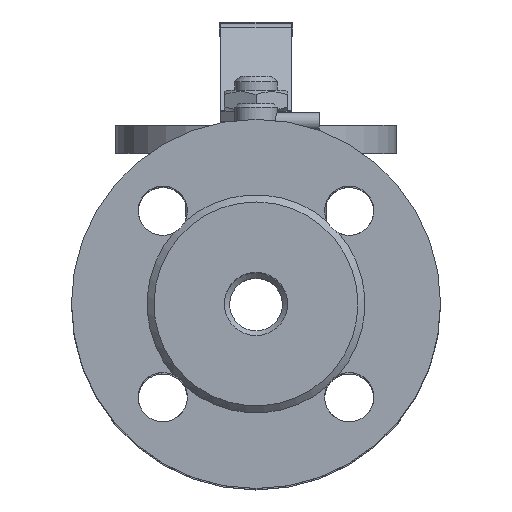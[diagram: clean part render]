
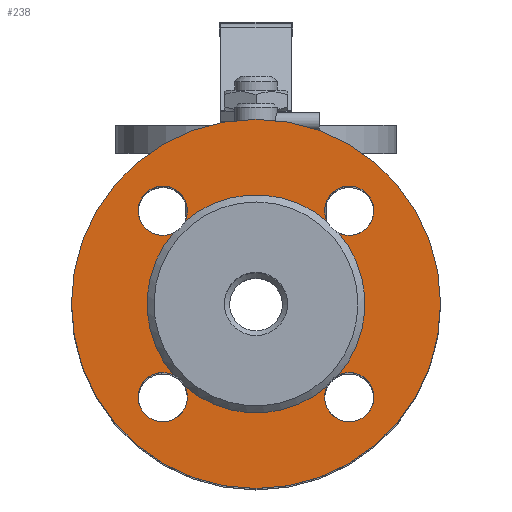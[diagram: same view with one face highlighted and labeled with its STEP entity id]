
A CAD part, top view. The second image highlights one B-rep face of the part: STEP entity #238.
In plain terms, the highlighted planar face has unit normal (0, 0, 1).
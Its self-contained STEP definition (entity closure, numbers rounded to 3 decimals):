
#238=ADVANCED_FACE('',(#2280,#2282),#2284,.F.);
#2280=FACE_BOUND('',#2281,.T.);
#2281=EDGE_LOOP('',(#24054));
#2282=FACE_BOUND('',#2283,.T.);
#2283=EDGE_LOOP('',(#24055,#24056,#24057,#24058,#24059,#24060,#24061,#24062));
#2284=PLANE('',#2285);
#2285=AXIS2_PLACEMENT_3D('',#2286,#2287,#2288);
#2286=CARTESIAN_POINT('',(0.,31.,123.));
#2287=DIRECTION('',(0.,0.,-1.));
#2288=DIRECTION('',(-1.,0.,0.));
#24054=ORIENTED_EDGE('',*,*,#28964,.T.);
#24055=ORIENTED_EDGE('',*,*,#28965,.F.);
#24056=ORIENTED_EDGE('',*,*,#28927,.F.);
#24057=ORIENTED_EDGE('',*,*,#28966,.F.);
#24058=ORIENTED_EDGE('',*,*,#28925,.F.);
#24059=ORIENTED_EDGE('',*,*,#28967,.F.);
#24060=ORIENTED_EDGE('',*,*,#28923,.F.);
#24061=ORIENTED_EDGE('',*,*,#28968,.F.);
#24062=ORIENTED_EDGE('',*,*,#28921,.F.);
#28921=EDGE_CURVE('',#31155,#31158,#31159,.T.);
#28923=EDGE_CURVE('',#31160,#31162,#31163,.T.);
#28925=EDGE_CURVE('',#31164,#31166,#31167,.T.);
#28927=EDGE_CURVE('',#31168,#31156,#31170,.T.);
#28964=EDGE_CURVE('',#31239,#31239,#31240,.T.);
#28965=EDGE_CURVE('',#31156,#31155,#31241,.T.);
#28966=EDGE_CURVE('',#31166,#31168,#31242,.T.);
#28967=EDGE_CURVE('',#31162,#31164,#31243,.T.);
#28968=EDGE_CURVE('',#31158,#31160,#31244,.T.);
#31155=VERTEX_POINT('',#47659);
#31156=VERTEX_POINT('',#47660);
#31158=VERTEX_POINT('',#47729);
#31159=CIRCLE('',#47730,31.);
#31160=VERTEX_POINT('',#47734);
#31162=VERTEX_POINT('',#47803);
#31163=CIRCLE('',#47804,31.);
#31164=VERTEX_POINT('',#47808);
#31166=VERTEX_POINT('',#47877);
#31167=CIRCLE('',#47878,31.);
#31168=VERTEX_POINT('',#47882);
#31170=CIRCLE('',#47951,31.);
#31239=VERTEX_POINT('',#48387);
#31240=CIRCLE('',#48388,52.5);
#31241=CIRCLE('',#48392,7.);
#31242=CIRCLE('',#48396,7.);
#31243=CIRCLE('',#48400,7.);
#31244=CIRCLE('',#48404,7.);
#47659=CARTESIAN_POINT('',(20.188,23.526,123.));
#47660=CARTESIAN_POINT('',(23.526,20.188,123.));
#47729=CARTESIAN_POINT('',(-20.188,23.526,123.));
#47730=AXIS2_PLACEMENT_3D('',#47731,#47732,#47733);
#47731=CARTESIAN_POINT('',(0.,0.,123.));
#47732=DIRECTION('',(0.,0.,1.));
#47733=DIRECTION('',(0.651,0.759,0.));
#47734=CARTESIAN_POINT('',(-23.526,20.188,123.));
#47803=CARTESIAN_POINT('',(-23.526,-20.188,123.));
#47804=AXIS2_PLACEMENT_3D('',#47805,#47806,#47807);
#47805=CARTESIAN_POINT('',(0.,0.,123.));
#47806=DIRECTION('',(0.,0.,1.));
#47807=DIRECTION('',(-0.759,0.651,0.));
#47808=CARTESIAN_POINT('',(-20.188,-23.526,123.));
#47877=CARTESIAN_POINT('',(20.188,-23.526,123.));
#47878=AXIS2_PLACEMENT_3D('',#47879,#47880,#47881);
#47879=CARTESIAN_POINT('',(0.,0.,123.));
#47880=DIRECTION('',(0.,0.,1.));
#47881=DIRECTION('',(-0.651,-0.759,0.));
#47882=CARTESIAN_POINT('',(23.526,-20.188,123.));
#47951=AXIS2_PLACEMENT_3D('',#47952,#47953,#47954);
#47952=CARTESIAN_POINT('',(0.,0.,123.));
#47953=DIRECTION('',(0.,0.,1.));
#47954=DIRECTION('',(0.759,-0.651,0.));
#48387=CARTESIAN_POINT('',(52.5,0.,123.));
#48388=AXIS2_PLACEMENT_3D('',#48389,#48390,#48391);
#48389=CARTESIAN_POINT('',(0.,0.,123.));
#48390=DIRECTION('',(0.,0.,1.));
#48391=DIRECTION('',(1.,0.,0.));
#48392=AXIS2_PLACEMENT_3D('',#48393,#48394,#48395);
#48393=CARTESIAN_POINT('',(26.517,26.517,123.));
#48394=DIRECTION('',(0.,0.,1.));
#48395=DIRECTION('',(-0.427,-0.904,0.));
#48396=AXIS2_PLACEMENT_3D('',#48397,#48398,#48399);
#48397=CARTESIAN_POINT('',(26.517,-26.517,123.));
#48398=DIRECTION('',(0.,0.,1.));
#48399=DIRECTION('',(-0.904,0.427,0.));
#48400=AXIS2_PLACEMENT_3D('',#48401,#48402,#48403);
#48401=CARTESIAN_POINT('',(-26.517,-26.517,123.));
#48402=DIRECTION('',(0.,0.,1.));
#48403=DIRECTION('',(0.427,0.904,0.));
#48404=AXIS2_PLACEMENT_3D('',#48405,#48406,#48407);
#48405=CARTESIAN_POINT('',(-26.517,26.517,123.));
#48406=DIRECTION('',(0.,0.,1.));
#48407=DIRECTION('',(0.904,-0.427,0.));
